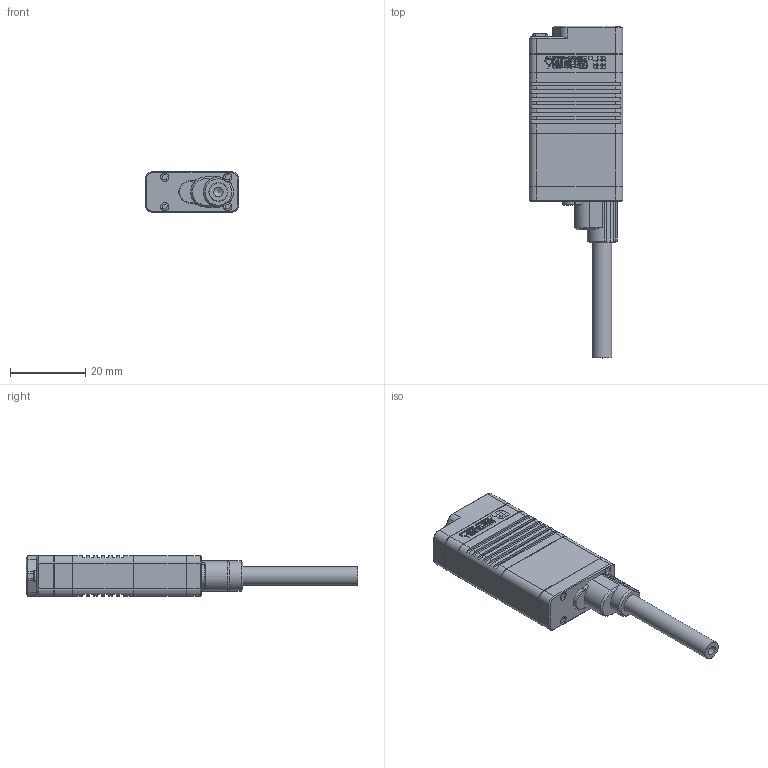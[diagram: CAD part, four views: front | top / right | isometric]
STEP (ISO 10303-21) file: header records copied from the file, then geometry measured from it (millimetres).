
FILE_DESCRIPTION (( 'STEP AP203' ), '1' );
FILE_NAME ('LAS30-0x1D-1201-01.STEP', '2023-12-01T09:36:36', ( '' ), ( '' ), '' );
FILE_SCHEMA (( 'CONFIG_CONTROL_DESIGN' ));
Length unit declared in the file: millimetre
Products named in the file (3): 30芢裝; LAS30-0x1D^LAS30-0x1D; LAS30-0x1D-1201-01
Assembly tree (2 placements, depth 2):
  LAS30-0x1D-1201-01
    30芢裝
    LAS30-0x1D^LAS30-0x1D
Bounding box: 24.8 x 88 x 10.82 mm (x, y, z)
Volume: 12615.4 mm3; surface area: 5932.2 mm2
Topology: 2 solids, 2 shells, 1345 faces, 3557 edges, 2331 vertices
Faces by surface type: plane 815, bspline 416, cylinder 60, cone 54
Full cylindrical faces by diameter (mm): 2.17 x8, 2.2 x8, 2.4 x1, 2.5 x1, 5 x2
Entity records: 43584 total; most frequent: CARTESIAN_POINT 12832, ORIENTED_EDGE 7058, DIRECTION 4755, EDGE_CURVE 3529, LINE 2461, VECTOR 2461, VERTEX_POINT 2326, EDGE_LOOP 1483
